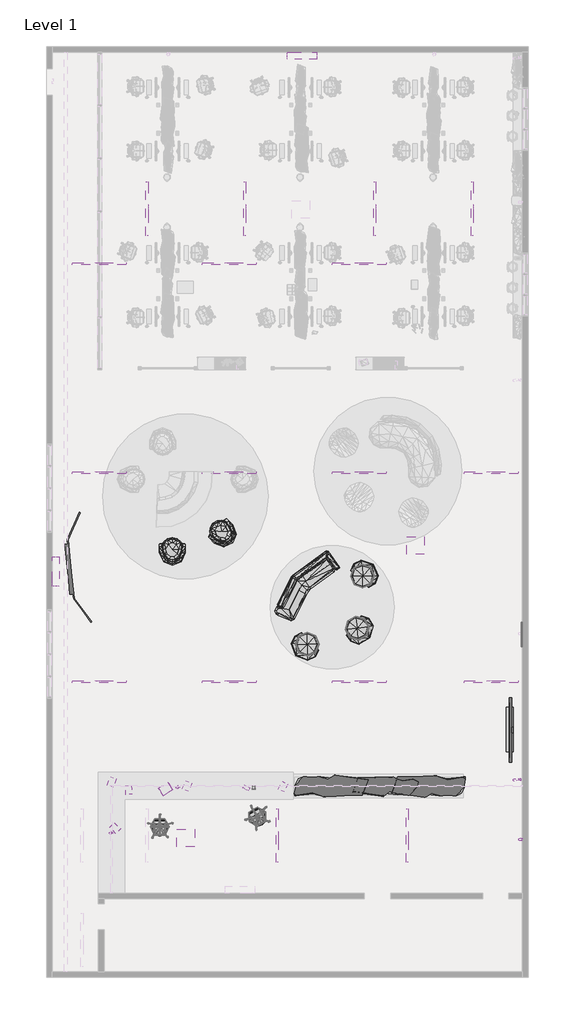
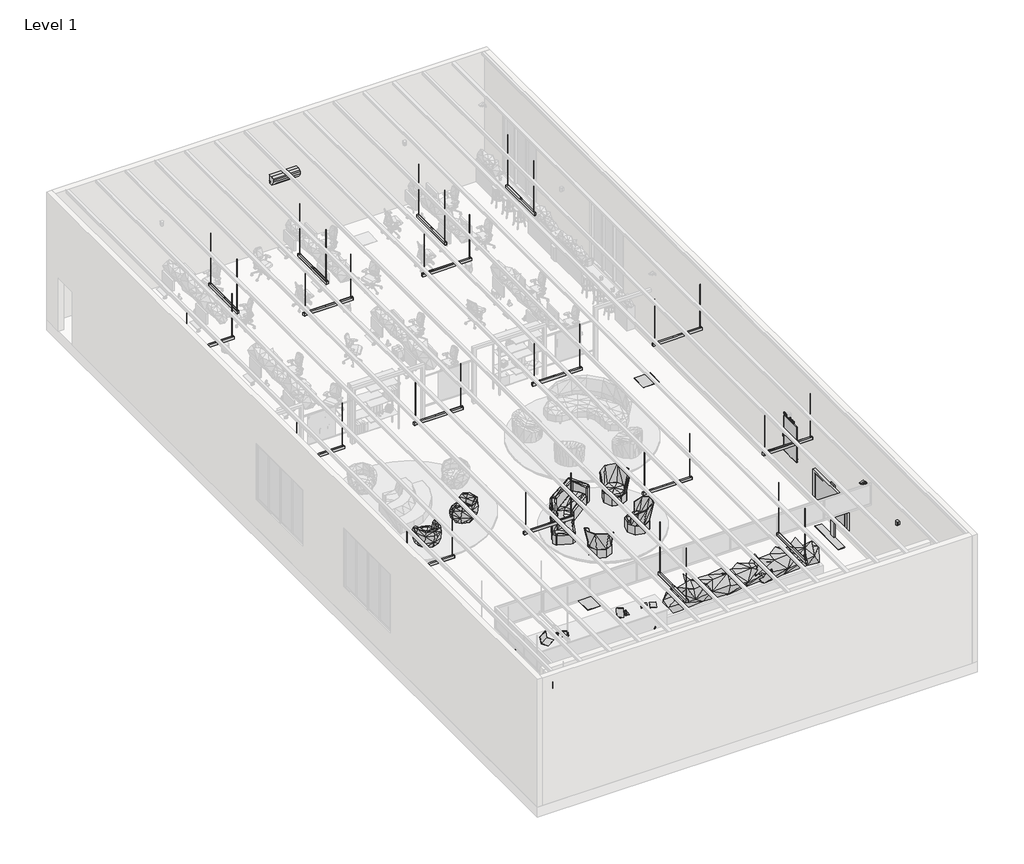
# One storey, part 2 of 6: 28 geographic elements, 17 light fixtures, 4 proxies.
"""IFC4 building model written with IfcOpenShell, lengths in millimetres."""

from ifc_helpers import new_model, si_unit, frame, origin, place, context, project, spatial, polyline, outline, extrude, transform, mapped, element, save
from components import mechanical_equipment_e18acb15, geographic_element_1c3b3942, geographic_element_586f9479, geographic_element_434369b6, geographic_element_3a85a20d, geographic_element_8d5893b8, enscape_assetdefinition_air_conditioner_001_enscape_db724180, enscape_assetdefinition_armchair_029_enscape_assetdefinition_e9313fe8, enscape_assetdefinition_armchair_062_enscape_assetdefinition_c0738665, enscape_assetdefinition_armchair_062_enscape_assetdefinition_27c534bf, enscape_assetdefinition_laptop_001_enscape_assetdefinition_056d9dbe, enscape_assetdefinition_office_chair_011_enscape_0e559967, enscape_assetdefinition_pencil_container_001_enscape_4b7912f9, enscape_assetdefinition_photo_grid_001_enscape_fef57153, enscape_assetdefinition_security_camera_003_enscape_78e4a898, enscape_assetdefinition_sofa_020_enscape_assetdefinition_e8b1b9e5, enscape_assetdefinition_tablet_stand_001_enscape_1d8d2ac8, enscape_assetdefinition_telephone_002_enscape_9aaeaa57, enscape_assetdefinition_wall_lamp_005_enscape_8ec44021, enscape_assetdefinition_whiteboard_008_digital_enscape_e1c9d93f, standart_2_fa765472, standart_3_6d86efcd

model = new_model("IFC4")

# Units and contexts
model_context = context("Model", 3, world=origin())
ifc_project = project(units=[si_unit("LENGTHUNIT", "METRE", prefix="MILLI")], contexts=[model_context])

# Site, building, storey
site = spatial("IfcSite", under=ifc_project)
building = spatial("IfcBuilding", under=site)
storey = spatial("IfcBuildingStorey", under=building, Name="Level 1", Elevation=0.0)

# Proxies
placement = place(None, origin())
mechanical_equipment_shape = mechanical_equipment_e18acb15(model_context)
element("IfcBuildingElementProxy", 1, Name="Fujitsu General_ASYG18LFCA : ASYG18LFCA", ObjectType="Fujitsu General_ASYG18LFCA : ASYG18LFCA", at=placement, inside=storey, context=model_context, shape_type="MappedRepresentation", body=[
    mapped(mechanical_equipment_shape, transform((17685.3362243, 16205.264194, 2800.0), x_axis=(1.0, 0.0, 0.0), y_axis=(0.0, 0.0, 1.0), z_axis=(0.0, -1.0, 0.0))),
])
element("IfcBuildingElementProxy", 2, Name="Fujitsu General_ASYG18LFCA : ASYG18LFCA", ObjectType="Fujitsu General_ASYG18LFCA : ASYG18LFCA", at=placement, inside=storey, context=model_context, shape_type="MappedRepresentation", body=[
    mapped(mechanical_equipment_shape, transform((9245.3362243, -1351.3561394, 3200.0), x_axis=(0.0, 1.0, 0.0), y_axis=(0.0, 0.0, 1.0), z_axis=(1.0, 0.0, 0.0))),
])
element("IfcBuildingElementProxy", 3, Name="24\" Arial 2", ObjectType="24\" Arial 2", at=placement, inside=storey, context=model_context, shape_type="SweptSolid", body=[
    extrude(outline(polyline([(815.1994003, 13568.8153847), (616.9284233, 13568.8153847), (616.9284233, 13614.5702255), (1066.851025, 13614.5702255), (1066.851025, 13493.272236), (1064.9334027, 13455.0389428), (1059.1805357, 13422.0781802), (1049.5924241, 13394.3899481), (1036.1690679, 13371.9742464), (1019.3126092, 13354.6672395), (999.4251902, 13342.3050918), (976.5068108, 13334.8878031), (950.5574712, 13332.4153736), (924.9693147, 13334.7984382), (901.3471866, 13341.9476321), (880.197488, 13353.4459189), (862.0266202, 13368.8762624), (846.8494774, 13388.0748268), (834.6809536, 13410.8777765), (826.2061801, 13435.1999298), (822.1102877, 13458.9561053), (818.9825154, 13451.5983933), (811.5056501, 13445.0151772), (616.9284233, 13288.9244441), (616.9284233, 13324.4321071), (619.609371, 13336.5261601), (627.7713673, 13345.998842), (805.5479886, 13491.723244), (813.0546421, 13500.8384662), (815.1994003, 13516.983729), (815.1994003, 13568.8153847)]), holes=[polyline([(845.7026275, 13568.8153847), (845.7026275, 13498.0383652), (847.3409845, 13471.8991251), (852.2560553, 13448.768504), (860.3435808, 13428.5720313), (871.4993021, 13411.2352362), (885.9466314, 13397.1602607), (903.9089811, 13386.7492471), (924.9544206, 13380.3149726), (948.6510195, 13378.1702144), (969.4953879, 13379.9910248), (987.4651846, 13385.4534557), (1002.5604096, 13394.5575073), (1014.7810629, 13407.3031795), (1024.2165094, 13423.6383428), (1030.956114, 13443.5108677), (1036.3477978, 13493.8680021), (1036.3477978, 13568.8153847), (845.7026275, 13568.8153847)])]), frame((0.0, -8221.3561394, 0.0), z_axis=(0.0, 1.0, 0.0), x_axis=(0.0, 0.0, 1.0)), (0.0, 0.0, 1.0), 30.0),
    extrude(outline(polyline([(937.2123092, 13109.9562906), (934.769668, 13082.3574234), (927.4417443, 13056.9926792), (915.7349393, 13034.6961308), (900.1556543, 13016.3018507), (881.0315606, 13001.6906857), (858.6903298, 12990.7434826), (833.0128084, 12983.9070659), (803.8798433, 12981.6282604), (789.6410322, 12985.6198936), (784.6961731, 12997.4756402), (784.6961731, 13210.4024646), (751.2439034, 13208.3768597), (720.830041, 13202.3000449), (695.2269905, 13192.4996916), (674.6581639, 13179.3034713), (659.0193023, 13163.3667266), (648.2061465, 13145.3448003), (641.9059194, 13125.2376925), (639.8058437, 13103.0454032), (644.4528197, 13066.2866313), (655.1170339, 13039.7154607), (667.2110869, 13020.591367), (673.2879017, 13004.8631405), (670.1899177, 12992.5903577), (657.6788284, 12982.8197927), (636.3504, 13006.2334027), (621.8732824, 13035.3067911), (612.7580602, 13068.967579), (609.3026165, 13105.1901613), (612.2367648, 13137.2572747), (621.0392098, 13166.4944989), (635.4418566, 13192.3507501), (655.1766106, 13214.2749447), (680.0200593, 13231.9840937), (709.7487905, 13245.1952082), (744.1542861, 13253.4167812), (783.0280278, 13256.1573055), (814.2163861, 13253.8040292), (842.9621032, 13246.7442002), (868.8183544, 13235.2310192), (891.3383152, 13219.5176868), (910.1049491, 13199.1722726), (924.7012199, 13173.762846), (934.0845369, 13143.8404908), (937.2123092, 13109.9562906)]), holes=[polyline([(906.709082, 13111.6244358), (905.0856192, 13132.3422039), (900.2152309, 13150.6471191), (892.3809059, 13166.5391813), (881.8656333, 13180.0183906), (868.6545187, 13191.1741119), (852.7326682, 13200.0957101), (815.1994003, 13210.4024646), (815.1994003, 13027.3831012), (835.6639678, 13028.9469874), (853.9242005, 13033.6386459), (869.6971095, 13041.0857228), (882.6997059, 13050.9158644), (892.9617779, 13063.0545999), (900.513114, 13077.4274584), (905.16009, 13093.7216628), (906.709082, 13111.6244358)])]), frame((0.0, -8221.3561394, 0.0), z_axis=(0.0, 1.0, 0.0), x_axis=(0.0, 0.0, 1.0)), (0.0, 0.0, 1.0), 30.0),
    extrude(outline(polyline([(886.2147262, 12686.7240127), (881.8060566, 12691.6092952), (879.7804517, 12699.3542552), (884.6061576, 12711.4483082), (894.0192629, 12726.0445791), (902.6578721, 12747.3134309), (906.709082, 12778.1145412), (904.4749589, 12801.7962459), (897.7725897, 12822.5586965), (886.9296456, 12840.3423163), (872.2737981, 12855.0875287), (853.8050473, 12866.7794395), (831.523393, 12875.4031546), (805.7267184, 12880.7203676), (776.7129066, 12882.4927719), (744.5862166, 12880.571426), (716.3617949, 12874.8073884), (692.3971012, 12865.5581189), (673.0495953, 12853.1810769), (658.2448063, 12838.2571347), (647.9082634, 12821.3671642), (641.8314486, 12802.6303185), (639.8058437, 12782.165751), (644.4528197, 12748.9815761), (654.8191509, 12726.521192), (667.0323571, 12710.3759291), (671.9027454, 12702.9735346), (673.5262082, 12694.7072792), (670.4282242, 12682.4344964), (658.1554413, 12672.6639314), (636.7674363, 12693.9923598), (622.1115888, 12720.0869175), (612.6984836, 12751.4242173), (609.3026165, 12786.5744206), (612.162294, 12816.6606115), (620.7413267, 12844.0062781), (634.7567255, 12868.1943841), (653.9255016, 12888.8078931), (677.9646661, 12905.5042397), (706.5912299, 12917.9408582), (739.5817808, 12925.6709241), (776.7129066, 12928.2476127), (809.852399, 12925.8943364), (839.9236958, 12918.8345074), (866.748067, 12907.2468557), (890.1467828, 12891.310111), (909.5836537, 12870.6668137), (924.5224901, 12844.959504), (934.0398545, 12814.5158534), (937.2123092, 12779.6635332), (934.6356206, 12748.490069), (926.9055547, 12720.9805667), (914.8859725, 12697.1648146), (899.4407349, 12677.072601), (886.2147262, 12686.7240127)])), frame((0.0, -8221.3561394, 0.0), z_axis=(0.0, 1.0, 0.0), x_axis=(0.0, 0.0, 1.0)), (0.0, 0.0, 1.0), 30.0),
    extrude(outline(polyline([(937.2123092, 12492.2659391), (934.769668, 12464.6670719), (927.4417443, 12439.3023277), (915.7349393, 12417.0057793), (900.1556543, 12398.6114992), (881.0315606, 12384.0003342), (858.6903298, 12373.0531311), (833.0128084, 12366.2167144), (803.8798433, 12363.9379089), (789.6410322, 12367.9295421), (784.6961731, 12379.7852886), (784.6961731, 12592.7121131), (751.2439034, 12590.6865082), (720.830041, 12584.6096934), (695.2269905, 12574.8093401), (674.6581639, 12561.6131197), (659.0193023, 12545.676375), (648.2061465, 12527.6544488), (641.9059194, 12507.547341), (639.8058437, 12485.3550517), (644.4528197, 12448.5962798), (655.1170339, 12422.0251092), (667.2110869, 12402.9010155), (673.2879017, 12387.172789), (670.1899177, 12374.9000062), (657.6788284, 12365.1294412), (636.3504, 12388.5430512), (621.8732824, 12417.6164396), (612.7580602, 12451.2772275), (609.3026165, 12487.4998098), (612.2367648, 12519.5669232), (621.0392098, 12548.8041474), (635.4418566, 12574.6603986), (655.1766106, 12596.5845932), (680.0200593, 12614.2937422), (709.7487905, 12627.5048567), (744.1542861, 12635.7264297), (783.0280278, 12638.466954), (814.2163861, 12636.1136777), (842.9621032, 12629.0538487), (868.8183544, 12617.5406677), (891.3383152, 12601.8273353), (910.1049491, 12581.4819211), (924.7012199, 12556.0724945), (934.0845369, 12526.1501393), (937.2123092, 12492.2659391)]), holes=[polyline([(906.709082, 12493.9340843), (905.0856192, 12514.6518524), (900.2152309, 12532.9567676), (892.3809059, 12548.8488298), (881.8656333, 12562.3280391), (868.6545187, 12573.4837604), (852.7326682, 12582.4053586), (815.1994003, 12592.7121131), (815.1994003, 12409.6927497), (835.6639678, 12411.2566359), (853.9242005, 12415.9482944), (869.6971095, 12423.3953713), (882.6997059, 12433.2255129), (892.9617779, 12445.3642484), (900.513114, 12459.7371069), (905.16009, 12476.0313113), (906.709082, 12493.9340843)])]), frame((0.0, -8221.3561394, 0.0), z_axis=(0.0, 1.0, 0.0), x_axis=(0.0, 0.0, 1.0)), (0.0, 0.0, 1.0), 30.0),
    extrude(outline(polyline([(510.167128, 12287.6798408), (937.2123092, 12287.6798408), (937.2123092, 12265.5173397), (934.2930551, 12253.6020166), (929.348196, 12249.66996), (888.8360973, 12245.4995969), (906.2771515, 12232.4821063), (922.1394255, 12208.4429419), (933.4440883, 12176.8673356), (937.2123092, 12141.2405194), (934.6654089, 12111.6309414), (927.024708, 12085.8342668), (914.2902064, 12063.8504956), (896.4619041, 12045.6796278), (873.807896, 12031.4482638), (846.5962768, 12021.2830037), (814.8270465, 12015.1838477), (778.500205, 12013.1507957), (744.437275, 12015.4444954), (712.5488915, 12022.3255945), (683.7138095, 12033.7345164), (658.8107841, 12049.6116845), (638.28664, 12069.8081572), (622.5882018, 12094.174993), (612.6240128, 12122.6526153), (609.3026165, 12155.1814475), (612.3857063, 12186.5932181), (621.6349759, 12213.387801), (636.2163526, 12232.7650953), (655.2957638, 12241.9249999), (510.167128, 12241.9249999), (510.167128, 12287.6798408)]), holes=[polyline([(906.709082, 12149.5812456), (902.9259669, 12176.7928648), (891.5766216, 12201.4724779), (873.7632135, 12223.2924134), (850.58791, 12241.9249999), (686.8713701, 12241.9249999), (664.0088438, 12223.8286029), (649.7551385, 12204.8087684), (642.2931674, 12184.1505769), (639.8058437, 12161.1391091), (642.0697551, 12138.6638308), (648.8614893, 12118.8992885), (660.1959404, 12101.6369641), (676.0880027, 12086.6683394), (696.3291578, 12074.5593923), (720.7108878, 12065.8761006), (748.4735907, 12060.6482525), (778.8576647, 12058.9056365), (810.1055997, 12060.3652636), (836.7661352, 12064.7441449), (858.8392713, 12072.0422803), (876.325008, 12082.2596699), (889.6180404, 12095.2250309), (899.1130635, 12110.7670805), (904.8100774, 12128.8858187), (906.709082, 12149.5812456)])]), frame((0.0, -8221.3561394, 0.0), z_axis=(0.0, 1.0, 0.0), x_axis=(0.0, 0.0, 1.0)), (0.0, 0.0, 1.0), 30.0),
    extrude(outline(polyline([(609.3026165, 11854.200385), (614.3070522, 11885.4036375), (629.3203593, 11909.1896013), (640.6175751, 11917.9734286), (654.4914795, 11924.2475909), (689.9693541, 11929.2669208), (899.0832752, 11929.2669208), (899.0832752, 11966.3235757), (903.0153318, 11977.285673), (914.0965824, 11981.8134958), (925.5352926, 11981.8134958), (929.348196, 11929.2669208), (1041.113927, 11921.5219607), (1044.9268304, 11918.066517), (1048.3822741, 11905.7937342), (1048.3822741, 11883.5120799), (929.5865024, 11883.5120799), (929.5865024, 11785.687277), (899.0832752, 11785.687277), (899.0832752, 11883.5120799), (689.9693541, 11883.5120799), (665.185482, 11880.2353661), (649.5168321, 11871.4776036), (641.8910253, 11860.3367764), (639.8058437, 11848.2427234), (642.3080616, 11833.6464526), (649.4572554, 11820.5395971), (657.3809453, 11810.0541128), (660.6576592, 11799.1515921), (659.1086672, 11791.8236684), (654.4616912, 11786.5213496), (641.8314486, 11778.4189298), (627.4883784, 11794.6684518), (617.3454596, 11813.1520968), (611.3133272, 11833.2145221), (609.3026165, 11854.200385)])), frame((0.0, -8221.3561394, 0.0), z_axis=(0.0, 1.0, 0.0), x_axis=(0.0, 0.0, 1.0)), (0.0, 0.0, 1.0), 30.0),
    extrude(outline(polyline([(11662.3636825, -8191.3561394), (11708.1185233, -8191.3561394), (11708.1185233, -8221.3561394), (11662.3636825, -8221.3561394), (11662.3636825, -8191.3561394)])), frame((0.0, 0.0, 616.9284233), z_axis=(0.0, 0.0, 1.0), x_axis=(1.0, 0.0, 0.0)), (0.0, 0.0, 1.0), 320.283886),
    extrude(outline(polyline([(1047.4290483, 11654.7378757), (1034.2030396, 11657.7762831), (1023.4792488, 11665.22336), (1016.2704783, 11675.8875742), (1013.4703773, 11689.1731595), (1016.2704783, 11702.6970513), (1023.5388254, 11713.4208421), (1034.0838864, 11720.6296126), (1047.4290483, 11723.3701369), (1055.8889277, 11721.2849554), (1064.1700773, 11715.446447), (1071.3788478, 11704.8418095), (1074.4768318, 11689.1731595), (1071.3788478, 11673.8619693), (1064.1700773, 11663.0786019), (1055.7101979, 11657.0017871), (1047.4290483, 11654.7378757)])), frame((0.0, -8221.3561394, 0.0), z_axis=(0.0, 1.0, 0.0), x_axis=(0.0, 0.0, 1.0)), (0.0, 0.0, 1.0), 30.0),
    extrude(outline(polyline([(937.2123092, 11441.0961318), (934.1143252, 11407.5544971), (924.8203732, 11377.9449191), (910.1645257, 11352.773799), (890.9808555, 11332.547538), (867.7310812, 11316.9235705), (840.8769217, 11305.5593311), (810.5077418, 11298.6335495), (776.7129066, 11296.3249556), (740.7137365, 11298.7378086), (708.2593751, 11305.9763674), (679.7072821, 11317.8470081), (655.414917, 11334.1561066), (635.7993163, 11354.8440864), (621.2775162, 11379.8513708), (612.2963414, 11408.7460295), (609.3026165, 11441.0961318), (612.2814473, 11473.5058107), (621.2179396, 11502.3408927), (635.7248455, 11527.3183888), (655.414917, 11548.1553102), (679.7370704, 11564.6282444), (708.1402219, 11576.5137793), (740.5052184, 11583.7076556), (776.7129066, 11586.1056144), (810.8205191, 11583.7970205), (841.1748047, 11576.8712389), (867.8800227, 11565.4921053), (891.0404321, 11549.8234554), (910.1794199, 11529.5525119), (924.8203732, 11504.3664976), (934.1143252, 11474.7271313), (937.2123092, 11441.0961318)]), holes=[polyline([(639.8058437, 11441.0961318), (641.9208136, 11419.0378898), (648.2657231, 11399.8095371), (659.0490906, 11383.1131906), (674.479434, 11368.6509671), (694.3184471, 11356.9888446), (718.3278232, 11348.6928008), (745.9713729, 11343.7330476), (776.7129066, 11342.0797965), (805.3096821, 11343.673471), (831.0467801, 11348.4544944), (853.4624817, 11356.3037135), (872.0950683, 11367.1019751), (886.8849631, 11380.9237499), (897.7725897, 11397.8435088), (904.4749589, 11417.89104), (906.709082, 11441.0961318), (904.4749589, 11464.2863294), (897.7725897, 11484.2891782), (886.8551748, 11501.208937), (871.9759151, 11515.1498651), (853.3582227, 11526.0821741), (831.2255099, 11533.9760756), (805.6522476, 11538.7570991), (776.7129066, 11540.3507735), (745.7479606, 11538.6677341), (718.1490933, 11533.618616), (694.2886588, 11525.2183131), (674.5390107, 11513.4817198), (659.1384555, 11498.9897081), (648.3252997, 11482.3231498), (641.9357077, 11463.1394796), (639.8058437, 11441.0961318)])]), frame((0.0, -8221.3561394, 0.0), z_axis=(0.0, 1.0, 0.0), x_axis=(0.0, 0.0, 1.0)), (0.0, 0.0, 1.0), 30.0),
    extrude(outline(polyline([(616.9284233, 11220.0668876), (937.2123092, 11220.0668876), (937.2123092, 11197.9043865), (935.2462809, 11186.5550412), (929.348196, 11182.0570067), (890.1467828, 11177.7674904), (906.6792937, 11165.0032005), (922.1990021, 11141.247025), (933.4589825, 11110.1331374), (937.2123092, 11075.2957114), (934.9781862, 11049.4245661), (928.2758169, 11026.8599229), (917.6711793, 11008.0635006), (903.7302512, 10993.4970181), (886.8849631, 10982.5796032), (867.5672455, 10974.7303841), (845.7175217, 10969.9940432), (821.2762151, 10968.4152629), (616.9284233, 10968.4152629), (616.9284233, 11014.1701037), (821.6336748, 11014.1701037), (857.7371039, 11018.4298317), (884.546581, 11031.2090158), (894.2426752, 11040.8678746), (901.1684568, 11052.805539), (906.709082, 11083.5172844), (903.0153318, 11109.4033239), (891.9340813, 11133.6807948), (874.8653809, 11155.5752011), (853.2092811, 11174.3120467), (616.9284233, 11174.3120467), (616.9284233, 11220.0668876)])), frame((0.0, -8221.3561394, 0.0), z_axis=(0.0, 1.0, 0.0), x_axis=(0.0, 0.0, 1.0)), (0.0, 0.0, 1.0), 30.0),
])
element("IfcBuildingElementProxy", 4, Name="24\" Arial 4", ObjectType="24\" Arial 4", at=placement, inside=storey, context=model_context, shape_type="SweptSolid", body=[
    extrude(outline(polyline([(-3145.5042475, 2536.6821631), (-3142.7796271, 2553.0831007), (-3135.0953462, 2565.9399032), (-3122.8451974, 2574.464985), (-3106.6571207, 2577.5514691), (-3090.5648315, 2574.454342), (-3078.3253258, 2565.9079741), (-3070.5984726, 2553.0937438), (-3067.8525661, 2536.6821631), (-3070.672974, 2519.3552802), (-3078.6446173, 2506.0514697), (-3090.9479813, 2497.4731727), (-3106.6571207, 2494.4505469), (-3122.4514046, 2497.4838157), (-3134.7441256, 2506.0621127), (-3142.6944827, 2519.3872094), (-3145.5042475, 2536.6821631)]), holes=[polyline([(-3137.3303863, 2536.660877), (-3135.0208448, 2520.8772362), (-3128.5285853, 2509.2337412), (-3118.8434112, 2502.2199723), (-3106.6784068, 2499.8997877), (-3094.619833, 2502.2199723), (-3084.9133728, 2509.2124551), (-3078.357255, 2520.8240209), (-3076.0264273, 2536.660877), (-3078.2721106, 2551.61436), (-3084.5727952, 2562.7257026), (-3094.2473263, 2569.6862563), (-3106.6784068, 2572.1022283), (-3119.2052748, 2569.6968993), (-3128.8478767, 2562.7363456), (-3135.0953462, 2551.5824309), (-3137.3303863, 2536.660877)])]), frame((25115.3362243, 0.0, 0.0), z_axis=(1.0, 0.0, 0.0), x_axis=(0.0, 1.0, 0.0)), (0.0, 0.0, 1.0), 30.0),
    extrude(outline(polyline([(-3167.3012107, 2553.0298855), (-3159.1273495, 2553.0298855), (-3159.1273495, 2517.0350957), (-3160.3087279, 2507.7862866), (-3163.8741491, 2500.6554441), (-3169.8555423, 2496.0470042), (-3178.2209784, 2494.4505469), (-3189.6622555, 2497.760535), (-3196.6121661, 2505.5406034), (-3197.2720351, 2498.431047), (-3200.0817999, 2495.8128571), (-3204.0835861, 2495.8128571), (-3204.0835861, 2553.0298855), (-3195.9097249, 2553.0298855), (-3195.9097249, 2510.2022586), (-3188.2148009, 2502.4966915), (-3179.668433, 2499.8997877), (-3170.5579835, 2504.2315084), (-3167.3012107, 2516.886093), (-3167.3012107, 2553.0298855)])), frame((25115.3362243, 0.0, 0.0), z_axis=(1.0, 0.0, 0.0), x_axis=(0.0, 1.0, 0.0)), (0.0, 0.0, 1.0), 30.0),
    extrude(outline(polyline([(-3221.7936187, 2495.8128571), (-3229.9674799, 2495.8128571), (-3229.9674799, 2533.4253903), (-3236.0233744, 2543.9620082), (-3245.5276167, 2547.5806447), (-3248.4331689, 2547.3571407), (-3253.3609003, 2546.1331901), (-3255.7875154, 2548.091511), (-3256.5112427, 2551.0715646), (-3251.6580126, 2552.5722344), (-3246.5493493, 2553.0298855), (-3234.4482033, 2549.4325351), (-3229.7333328, 2540.9180964), (-3229.1586082, 2552.4232317), (-3226.4339878, 2553.0298855), (-3221.7936187, 2553.0298855), (-3221.7936187, 2495.8128571)])), frame((25115.3362243, 0.0, 0.0), z_axis=(1.0, 0.0, 0.0), x_axis=(0.0, 1.0, 0.0)), (0.0, 0.0, 1.0), 30.0),
    extrude(outline(polyline([(-3303.5322307, 2528.5083019), (-3317.1553327, 2528.5083019), (-3329.5651271, 2530.3069771), (-3339.0161541, 2535.3624251), (-3345.0188335, 2543.1957087), (-3347.126157, 2553.1576021), (-3345.2769274, 2562.7150596), (-3339.7292384, 2570.0161908), (-3330.4405179, 2574.6459168), (-3317.3681936, 2576.1891589), (-3295.3583695, 2576.1891589), (-3295.3583695, 2495.8128571), (-3303.5322307, 2495.8128571), (-3303.5322307, 2528.5083019)]), holes=[polyline([(-3303.5322307, 2533.9575427), (-3303.5322307, 2570.7399181), (-3317.3043353, 2570.7399181), (-3333.5881994, 2566.1846933), (-3337.6112717, 2560.6449866), (-3338.9522958, 2553.136316), (-3337.3664816, 2545.1221005), (-3332.9176874, 2539.0449198), (-3326.1593516, 2535.2879237), (-3317.3043353, 2533.9575427), (-3303.5322307, 2533.9575427)])]), frame((25115.3362243, 0.0, 0.0), z_axis=(1.0, 0.0, 0.0), x_axis=(0.0, 1.0, 0.0)), (0.0, 0.0, 1.0), 30.0),
    extrude(outline(polyline([(-3359.3869488, 2495.8128571), (-3367.56081, 2495.8128571), (-3367.56081, 2533.4253903), (-3373.6167046, 2543.9620082), (-3383.1209468, 2547.5806447), (-3386.0264991, 2547.3571407), (-3390.9542305, 2546.1331901), (-3393.3808455, 2548.091511), (-3394.1045728, 2551.0715646), (-3389.2513427, 2552.5722344), (-3384.1426795, 2553.0298855), (-3372.0415334, 2549.4325351), (-3367.326663, 2540.9180964), (-3366.7519384, 2552.4232317), (-3364.027318, 2553.0298855), (-3359.3869488, 2553.0298855), (-3359.3869488, 2495.8128571)])), frame((25115.3362243, 0.0, 0.0), z_axis=(1.0, 0.0, 0.0), x_axis=(0.0, 1.0, 0.0)), (0.0, 0.0, 1.0), 30.0),
    extrude(outline(polyline([(-3427.5237449, 2553.0298855), (-3416.2208275, 2550.8161314), (-3408.1001815, 2544.7815229), (-3403.2682375, 2535.8732914), (-3401.618565, 2524.357513), (-3403.3320958, 2512.1073643), (-3408.3981869, 2502.6882664), (-3416.5826911, 2496.5791566), (-3427.5237449, 2494.4505469), (-3438.4647987, 2496.5897996), (-3446.6280168, 2502.6882664), (-3451.6621788, 2512.1286503), (-3453.3863526, 2524.357513), (-3451.7366801, 2535.8200762), (-3446.9153792, 2544.7708799), (-3438.8053763, 2550.8161314), (-3427.5237449, 2553.0298855)]), holes=[polyline([(-3427.5237449, 2499.8997877), (-3420.1587554, 2501.4217436), (-3414.5924411, 2506.1046849), (-3410.9950907, 2513.8953964), (-3409.7924262, 2524.357513), (-3410.9312324, 2534.0959023), (-3414.2944357, 2541.3757474), (-3419.8075348, 2545.9841874), (-3427.5237449, 2547.5806447), (-3435.2505981, 2545.9841874), (-3440.7424111, 2541.3970335), (-3444.0736852, 2534.0639732), (-3445.2124914, 2524.357513), (-3444.031113, 2513.9273255), (-3440.4656918, 2506.0940419), (-3434.8993775, 2501.4111006), (-3427.5237449, 2499.8997877)])]), frame((25115.3362243, 0.0, 0.0), z_axis=(1.0, 0.0, 0.0), x_axis=(0.0, 1.0, 0.0)), (0.0, 0.0, 1.0), 30.0),
    extrude(outline(polyline([(-3476.545626, 2553.0298855), (-3468.3717648, 2553.0298855), (-3468.3717648, 2490.2784719), (-3466.3602286, 2483.0944142), (-3460.8364865, 2480.8274449), (-3459.0165252, 2481.0509489), (-3457.3881388, 2481.2744529), (-3455.238243, 2480.5932978), (-3454.9615238, 2477.102378), (-3458.5056589, 2475.6868525), (-3461.7305026, 2475.3782041), (-3468.1163316, 2476.5063672), (-3472.7354147, 2479.6779957), (-3475.5983947, 2484.4247953), (-3476.545626, 2490.2784719), (-3476.545626, 2553.0298855)])), frame((25115.3362243, 0.0, 0.0), z_axis=(1.0, 0.0, 0.0), x_axis=(0.0, 1.0, 0.0)), (0.0, 0.0, 1.0), 30.0),
    extrude(outline(polyline([(-3477.7057183, 2573.4592169), (-3476.4179094, 2575.7102217), (-3474.4915176, 2576.9980305), (-3471.7562542, 2577.5514691), (-3468.9571325, 2576.9980305), (-3467.0626698, 2575.7102217), (-3465.6471444, 2572.7195251), (-3466.1367246, 2570.3354822), (-3467.4245335, 2568.4516627), (-3469.3402822, 2567.1532107), (-3471.7562542, 2566.6529875), (-3474.129654, 2567.1532107), (-3476.0347597, 2568.4410196), (-3477.3651407, 2570.3567683), (-3477.7057183, 2573.4592169)])), frame((25115.3362243, 0.0, 0.0), z_axis=(1.0, 0.0, 0.0), x_axis=(0.0, 1.0, 0.0)), (0.0, 0.0, 1.0), 30.0),
    extrude(outline(polyline([(-3516.2867688, 2553.0298855), (-3504.888064, 2550.7948453), (-3496.7142028, 2544.8347382), (-3491.8503296, 2536.1925829), (-3490.168728, 2525.4856761), (-3492.1270489, 2512.3947266), (-3497.650791, 2502.6456942), (-3506.1865159, 2496.5472274), (-3517.1382127, 2494.4505469), (-3523.6091862, 2495.0678437), (-3529.6225085, 2496.6962301), (-3534.8163162, 2499.2824909), (-3538.9990342, 2503.0927022), (-3537.2535743, 2505.3277424), (-3535.0611063, 2505.8811809), (-3532.2513415, 2504.79559), (-3528.834923, 2502.6350511), (-3524.0881233, 2500.7299455), (-3517.5213625, 2499.8997877), (-3509.9647981, 2501.4004575), (-3503.8982605, 2506.125971), (-3499.7900438, 2514.3743336), (-3498.3425892, 2525.7836815), (-3536.3808443, 2525.7836815), (-3538.4988109, 2526.6670545), (-3539.2118952, 2529.2107431), (-3537.5835088, 2539.0023476), (-3533.017641, 2546.4099094), (-3525.7484389, 2551.2844255), (-3516.2867688, 2553.0298855)]), holes=[polyline([(-3515.9887635, 2547.5806447), (-3522.0978733, 2546.4737676), (-3526.8340298, 2543.2914962), (-3529.9205139, 2538.1509038), (-3531.038034, 2531.2329223), (-3498.3425892, 2531.2329223), (-3500.1838366, 2537.9380428), (-3503.7705439, 2543.1424935), (-3509.0175668, 2546.4205524), (-3515.9887635, 2547.5806447)])]), frame((25115.3362243, 0.0, 0.0), z_axis=(1.0, 0.0, 0.0), x_axis=(0.0, 1.0, 0.0)), (0.0, 0.0, 1.0), 30.0),
    extrude(outline(polyline([(-3591.8949849, 2543.919436), (-3593.6191588, 2546.2821928), (-3585.7752321, 2551.1886381), (-3575.2918294, 2553.0298855), (-3563.6270483, 2550.7629162), (-3555.3467566, 2544.6218772), (-3550.4296682, 2535.6497874), (-3548.7480666, 2524.357513), (-3550.5893139, 2511.830645), (-3555.7937646, 2502.4221902), (-3563.7973371, 2496.4940122), (-3574.0572357, 2494.4505469), (-3580.3366343, 2495.0572007), (-3585.9348778, 2496.7388023), (-3590.596533, 2499.3569922), (-3594.4067443, 2503.1778466), (-3592.6612844, 2505.3703146), (-3590.4688164, 2505.9237531), (-3587.6696947, 2504.7636608), (-3584.7854286, 2502.5818359), (-3580.7729993, 2500.7299455), (-3574.8448213, 2499.8997877), (-3567.8416955, 2501.3472423), (-3562.1583076, 2505.8386087), (-3558.294881, 2513.5761049), (-3556.9219278, 2524.357513), (-3558.1884505, 2534.1491176), (-3561.81773, 2541.4289627), (-3567.6288345, 2545.9841874), (-3575.5685486, 2547.5806447), (-3581.0710047, 2546.8569174), (-3584.870573, 2545.3136754), (-3587.4781198, 2543.6320737), (-3591.8949849, 2543.919436)])), frame((25115.3362243, 0.0, 0.0), z_axis=(1.0, 0.0, 0.0), x_axis=(0.0, 1.0, 0.0)), (0.0, 0.0, 1.0), 30.0),
    extrude(outline(polyline([(-3620.7376462, 2494.4505469), (-3628.0707065, 2495.8873584), (-3634.2756038, 2500.2616513), (-3632.8281492, 2502.5179776), (-3630.5718229, 2503.6248546), (-3628.6241451, 2503.039487), (-3626.7509685, 2501.6239615), (-3624.4094979, 2500.3467957), (-3621.801951, 2499.8997877), (-3619.6414122, 2500.2722944), (-3617.6511621, 2501.6346046), (-3616.086634, 2504.4337263), (-3615.5012663, 2508.8612345), (-3615.5012663, 2546.2183345), (-3632.9771519, 2546.2183345), (-3632.9771519, 2551.6675753), (-3615.5012663, 2551.6675753), (-3615.5012663, 2572.8898139), (-3611.5207662, 2572.8898139), (-3608.7110014, 2571.5913619), (-3607.3274051, 2551.6250031), (-3597.9402364, 2550.943848), (-3597.9402364, 2548.9003827), (-3598.7491081, 2546.9207757), (-3600.707429, 2546.2183345), (-3607.3274051, 2546.2183345), (-3607.3274051, 2508.8612345), (-3610.9141125, 2498.0266112), (-3620.7376462, 2494.4505469)])), frame((25115.3362243, 0.0, 0.0), z_axis=(1.0, 0.0, 0.0), x_axis=(0.0, 1.0, 0.0)), (0.0, 0.0, 1.0), 30.0),
    extrude(outline(polyline([(-3679.1679821, 2544.5154467), (-3680.5302923, 2546.6440564), (-3672.782153, 2551.4014991), (-3662.9266902, 2553.0298855), (-3654.4122514, 2551.6569322), (-3648.0796376, 2548.1021541), (-3644.1417097, 2543.2914962), (-3642.7474703, 2537.9380428), (-3644.205568, 2531.4777124), (-3647.951921, 2527.1034195), (-3652.996726, 2524.2404395), (-3658.6268986, 2522.2501894), (-3664.1187116, 2520.4940864), (-3668.610078, 2518.5144794), (-3671.6007746, 2515.8324312), (-3672.7182947, 2512.0328629), (-3671.8242787, 2506.988058), (-3669.2486609, 2503.0820592), (-3665.3533052, 2500.7193024), (-3660.2233559, 2499.8997877), (-3654.9231177, 2500.6767302), (-3651.240623, 2502.4115471), (-3648.4521443, 2504.4550124), (-3645.6210934, 2505.5406034), (-3642.9390452, 2504.6465873), (-3641.4703045, 2502.2412584), (-3649.7825253, 2496.5152983), (-3660.3085002, 2494.4505469), (-3668.9400125, 2495.8980015), (-3675.421629, 2499.8572155), (-3679.4872735, 2505.7747504), (-3680.8921559, 2513.1184539), (-3679.593704, 2518.4612642), (-3676.0921411, 2522.4843365), (-3671.1218375, 2525.3686026), (-3665.2468747, 2527.5078553), (-3659.7550617, 2529.2852444), (-3655.4446271, 2531.1584209), (-3652.2197834, 2533.9468996), (-3650.9213315, 2538.5979118), (-3651.7514893, 2541.929186), (-3654.1461752, 2544.792166), (-3657.9776726, 2546.8143452), (-3663.0331206, 2547.5806447), (-3668.3120727, 2546.9101326), (-3672.0371396, 2545.4201058), (-3674.6234004, 2543.8236486), (-3676.7626531, 2543.046706), (-3679.1679821, 2544.5154467)])), frame((25115.3362243, 0.0, 0.0), z_axis=(1.0, 0.0, 0.0), x_axis=(0.0, 1.0, 0.0)), (0.0, 0.0, 1.0), 30.0),
    extrude(outline(polyline([(-3693.1529477, 2501.2408118), (-3695.1006256, 2496.3982248), (-3699.9432126, 2494.4505469), (-3702.5826886, 2494.9614132), (-3704.7219414, 2496.3769387), (-3706.2013251, 2498.5161914), (-3706.7760497, 2501.2408118), (-3706.3290417, 2502.9436995), (-3705.1050911, 2504.6678734), (-3702.9658384, 2506.1046849), (-3699.9432126, 2506.7113387), (-3696.8460855, 2506.0940419), (-3694.7387619, 2504.6572303), (-3693.5680266, 2502.9862717), (-3693.1529477, 2501.2408118)])), frame((25115.3362243, 0.0, 0.0), z_axis=(1.0, 0.0, 0.0), x_axis=(0.0, 1.0, 0.0)), (0.0, 0.0, 1.0), 30.0),
    extrude(outline(polyline([(-3693.1529477, 2546.1970484), (-3695.1006256, 2541.3544613), (-3699.9432126, 2539.4067835), (-3702.5826886, 2539.9176498), (-3704.7219414, 2541.3331752), (-3706.2013251, 2543.472428), (-3706.7760497, 2546.1970484), (-3706.3290417, 2547.8999361), (-3705.1050911, 2549.62411), (-3702.9658384, 2551.0609215), (-3699.9432126, 2551.6675753), (-3696.8460855, 2551.0502785), (-3694.7387619, 2549.6134669), (-3693.5680266, 2547.9425083), (-3693.1529477, 2546.1970484)])), frame((25115.3362243, 0.0, 0.0), z_axis=(1.0, 0.0, 0.0), x_axis=(0.0, 1.0, 0.0)), (0.0, 0.0, 1.0), 30.0),
])

# Geographic elements
geographic_element_shape = geographic_element_1c3b3942(model_context)
element("IfcGeographicElement", 5, ObjectType="Enscape AssetDefinition - Clipboard 001 : Enscape AssetDefinition - Clipboard 001", at=placement, inside=storey, context=model_context, shape_type="MappedRepresentation", body=[
    mapped(geographic_element_shape, transform((13802.609737, -8619.4615956, 1200.0), x_axis=(0.9271838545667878, -0.3746065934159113, 0.0), y_axis=(0.3746065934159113, 0.9271838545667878, 0.0), z_axis=(0.0, 0.0, 1.0))),
])
element("IfcGeographicElement", 6, ObjectType="Enscape AssetDefinition - Clipboard 001 : Enscape AssetDefinition - Clipboard 001", at=placement, inside=storey, context=model_context, shape_type="MappedRepresentation", body=[
    mapped(geographic_element_shape, transform((11366.6565679, -10040.5294224, 1200.0), x_axis=(0.7071067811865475, 0.7071067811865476, 0.0), y_axis=(-0.7071067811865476, 0.7071067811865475, 0.0), z_axis=(0.0, 0.0, 1.0))),
])
geographic_element_2_shape = geographic_element_586f9479(model_context)
element("IfcGeographicElement", 7, ObjectType="Enscape AssetDefinition - Leaflets 001 : Enscape AssetDefinition - Leaflets 001", at=placement, inside=storey, context=model_context, shape_type="MappedRepresentation", body=[
    mapped(geographic_element_2_shape, transform((16918.2346312, -8578.1987213, 1200.0), x_axis=(0.9063077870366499, -0.42261826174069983, 0.0), y_axis=(0.42261826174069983, 0.9063077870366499, 0.0), z_axis=(0.0, 0.0, 1.0))),
])
element("IfcGeographicElement", 8, ObjectType="Enscape AssetDefinition - Leaflets 001 : Enscape AssetDefinition - Leaflets 001", at=placement, inside=storey, context=model_context, shape_type="MappedRepresentation", body=[
    mapped(geographic_element_2_shape, transform((11965.7049248, -8735.4475086, 1200.0), x_axis=(0.9937349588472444, 0.11176238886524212, 0.0), y_axis=(-0.11176238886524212, 0.9937349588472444, 0.0), z_axis=(0.0, 0.0, 1.0))),
])
element("IfcGeographicElement", 9, ObjectType="Enscape AssetDefinition - Leaflets 001 : Enscape AssetDefinition - Leaflets 001", at=placement, inside=storey, context=model_context, shape_type="MappedRepresentation", body=[
    mapped(geographic_element_2_shape, transform((11392.2980075, -8531.9072306, 1200.0), x_axis=(0.9361633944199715, -0.35156521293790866, 0.0), y_axis=(0.35156521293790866, 0.9361633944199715, 0.0), z_axis=(0.0, 0.0, 1.0))),
])
geographic_element_3_shape = geographic_element_434369b6(model_context)
element("IfcGeographicElement", 10, ObjectType="Enscape AssetDefinition - Whiteboard 007 Decals : Enscape AssetDefinition - Whiteboard 007 Decals", at=placement, inside=storey, context=model_context, shape_type="MappedRepresentation", body=[
    mapped(geographic_element_3_shape, transform((9747.0673054, -1283.3869923, 0.0), x_axis=(-0.10452846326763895, 0.994521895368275, 0.0), y_axis=(-0.994521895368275, -0.10452846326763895, 0.0), z_axis=(0.0, 0.0, 1.0))),
])
geographic_element_4_shape = geographic_element_3a85a20d(model_context)
element("IfcGeographicElement", 11, ObjectType="Enscape AssetDefinition - Potted Plant 250 Snake Plant : Enscape AssetDefinition - Potted Plant 250 Snake Plant 2", at=placement, inside=storey, context=model_context, shape_type="MappedRepresentation", body=[
    mapped(geographic_element_4_shape, transform((18695.3362243, -8623.8561394, 800.0), x_axis=(0.0, 1.0, 0.0), y_axis=(-1.0, 0.0, 0.0), z_axis=(0.0, 0.0, 1.0))),
])
element("IfcGeographicElement", 12, ObjectType="Enscape AssetDefinition - Potted Plant 250 Snake Plant : Enscape AssetDefinition - Potted Plant 250 Snake Plant 2", at=placement, inside=storey, context=model_context, shape_type="MappedRepresentation", body=[
    mapped(geographic_element_4_shape, transform((21955.3362243, -8623.8561394, 800.0), x_axis=(0.0, -1.0, 0.0), y_axis=(1.0, 0.0, 0.0), z_axis=(0.0, 0.0, 1.0))),
])
geographic_element_5_shape = geographic_element_8d5893b8(model_context)
element("IfcGeographicElement", 13, ObjectType="Enscape AssetDefinition - Potted Plant 250 Snake Plant : Enscape AssetDefinition - Potted Plant 250 Snake Plant 3", at=placement, inside=storey, context=model_context, shape_type="MappedRepresentation", body=[
    mapped(geographic_element_5_shape, transform((20495.3362243, -8623.8561394, 800.0), x_axis=(0.0, -1.0, 0.0), y_axis=(1.0, 0.0, 0.0), z_axis=(0.0, 0.0, 1.0))),
])
enscape_assetdefinition_air_conditioner_001_enscape_shape = enscape_assetdefinition_air_conditioner_001_enscape_db724180(model_context)
element("IfcGeographicElement", 14, ObjectType="Enscape AssetDefinition - Air Conditioner 001 : Enscape AssetDefinition - Air Conditioner 001", at=placement, inside=storey, context=model_context, shape_type="MappedRepresentation", body=[
    mapped(enscape_assetdefinition_air_conditioner_001_enscape_shape, transform((21535.3362243, -474.735806, 3500.0), x_axis=(1.0, 0.0, 0.0), y_axis=(0.0, 1.0, 0.0), z_axis=(0.0, 0.0, 1.0))),
])
element("IfcGeographicElement", 15, ObjectType="Enscape AssetDefinition - Air Conditioner 001 : Enscape AssetDefinition - Air Conditioner 001", at=placement, inside=storey, context=model_context, shape_type="MappedRepresentation", body=[
    mapped(enscape_assetdefinition_air_conditioner_001_enscape_shape, transform((13755.3362243, -10374.735806, 3500.0), x_axis=(1.0, 0.0, 0.0), y_axis=(0.0, 1.0, 0.0), z_axis=(0.0, 0.0, 1.0))),
])
enscape_assetdefinition_armchair_029_enscape_assetdefinition_shape = enscape_assetdefinition_armchair_029_enscape_assetdefinition_e9313fe8(model_context)
element("IfcGeographicElement", 16, ObjectType="Enscape AssetDefinition - Armchair 029 : Enscape AssetDefinition - Armchair 029", at=placement, inside=storey, context=model_context, shape_type="MappedRepresentation", body=[
    mapped(enscape_assetdefinition_armchair_029_enscape_assetdefinition_shape, transform((13299.899454, -707.7051457, 100.0), x_axis=(-1.0, 0.0, 0.0), y_axis=(0.0, -1.0, 0.0), z_axis=(0.0, 0.0, 1.0))),
])
element("IfcGeographicElement", 17, ObjectType="Enscape AssetDefinition - Armchair 029 : Enscape AssetDefinition - Armchair 029", at=placement, inside=storey, context=model_context, shape_type="MappedRepresentation", body=[
    mapped(enscape_assetdefinition_armchair_029_enscape_assetdefinition_shape, transform((15028.7486539, -75.7331379, 100.0), x_axis=(-0.7071067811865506, -0.7071067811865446, 0.0), y_axis=(0.7071067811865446, -0.7071067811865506, 0.0), z_axis=(0.0, 0.0, 1.0))),
])
enscape_assetdefinition_armchair_062_enscape_assetdefinition_shape = enscape_assetdefinition_armchair_062_enscape_assetdefinition_c0738665(model_context)
element("IfcGeographicElement", 18, ObjectType="Enscape AssetDefinition - Armchair 062 : Enscape AssetDefinition - Armchair 062", at=placement, inside=storey, context=model_context, shape_type="MappedRepresentation", body=[
    mapped(enscape_assetdefinition_armchair_062_enscape_assetdefinition_shape, transform((19737.1924114, -1509.0338674, 100.0), x_axis=(0.7332728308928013, -0.6799345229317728, 0.0), y_axis=(0.6799345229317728, 0.7332728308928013, 0.0), z_axis=(0.0, 0.0, 1.0))),
])
element("IfcGeographicElement", 19, ObjectType="Enscape AssetDefinition - Armchair 062 : Enscape AssetDefinition - Armchair 062", at=placement, inside=storey, context=model_context, shape_type="MappedRepresentation", body=[
    mapped(enscape_assetdefinition_armchair_062_enscape_assetdefinition_shape, transform((19558.5627873, -3276.2277736, 100.0), x_axis=(-0.6156614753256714, -0.7880107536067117, 0.0), y_axis=(0.7880107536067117, -0.6156614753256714, 0.0), z_axis=(0.0, 0.0, 1.0))),
])
enscape_assetdefinition_armchair_062_enscape_assetdefinition_2_shape = enscape_assetdefinition_armchair_062_enscape_assetdefinition_27c534bf(model_context)
element("IfcGeographicElement", 20, ObjectType="Enscape AssetDefinition - Armchair 062 : Enscape AssetDefinition - Armchair 062", at=placement, inside=storey, context=model_context, shape_type="MappedRepresentation", body=[
    mapped(enscape_assetdefinition_armchair_062_enscape_assetdefinition_2_shape, transform((17862.6578155, -3821.706815, 100.0), x_axis=(0.7071067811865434, -0.7071067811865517, 0.0), y_axis=(0.7071067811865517, 0.7071067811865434, 0.0), z_axis=(0.0, 0.0, 1.0))),
])
enscape_assetdefinition_laptop_001_enscape_assetdefinition_shape = enscape_assetdefinition_laptop_001_enscape_assetdefinition_056d9dbe(model_context)
element("IfcGeographicElement", 21, ObjectType="Enscape AssetDefinition - Laptop 001 : Enscape AssetDefinition - Laptop 001", at=placement, inside=storey, context=model_context, shape_type="MappedRepresentation", body=[
    mapped(enscape_assetdefinition_laptop_001_enscape_assetdefinition_shape, transform((13088.2065876, -8742.5395627, 1200.0), x_axis=(0.5299192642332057, -0.8480480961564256, 0.0), y_axis=(0.8480480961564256, 0.5299192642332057, 0.0), z_axis=(0.0, 0.0, 1.0))),
])
enscape_assetdefinition_office_chair_011_enscape_shape = enscape_assetdefinition_office_chair_011_enscape_0e559967(model_context)
element("IfcGeographicElement", 22, ObjectType="Enscape AssetDefinition - Office Chair 011 : Enscape AssetDefinition - Office Chair 011", at=placement, inside=storey, context=model_context, shape_type="MappedRepresentation", body=[
    mapped(enscape_assetdefinition_office_chair_011_enscape_shape, transform((12876.7385791, -10000.0, 0.0), x_axis=(-1.0, 0.0, 0.0), y_axis=(0.0, -1.0, 0.0), z_axis=(0.0, 0.0, 1.0))),
])
element("IfcGeographicElement", 23, ObjectType="Enscape AssetDefinition - Office Chair 011 : Enscape AssetDefinition - Office Chair 011", at=placement, inside=storey, context=model_context, shape_type="MappedRepresentation", body=[
    mapped(enscape_assetdefinition_office_chair_011_enscape_shape, transform((16175.8925203, -9658.8455226, 0.0), x_axis=(-0.8571673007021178, -0.5150380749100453, 0.0), y_axis=(0.5150380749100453, -0.8571673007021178, 0.0), z_axis=(0.0, 0.0, 1.0))),
])
enscape_assetdefinition_pencil_container_001_enscape_shape = enscape_assetdefinition_pencil_container_001_enscape_4b7912f9(model_context)
element("IfcGeographicElement", 24, ObjectType="Enscape AssetDefinition - Pencil Container 001 : Enscape AssetDefinition - Pencil Container 001", at=placement, inside=storey, context=model_context, shape_type="MappedRepresentation", body=[
    mapped(enscape_assetdefinition_pencil_container_001_enscape_shape, transform((13467.8733599, -8671.0819289, 1200.0), x_axis=(1.0, 0.0, 0.0), y_axis=(0.0, 1.0, 0.0), z_axis=(0.0, 0.0, 1.0))),
])
element("IfcGeographicElement", 25, ObjectType="Enscape AssetDefinition - Pencil Container 001 : Enscape AssetDefinition - Pencil Container 001", at=placement, inside=storey, context=model_context, shape_type="MappedRepresentation", body=[
    mapped(enscape_assetdefinition_pencil_container_001_enscape_shape, transform((11199.3726574, -10216.1909815, 1200.0), x_axis=(1.0, 0.0, 0.0), y_axis=(0.0, 1.0, 0.0), z_axis=(0.0, 0.0, 1.0))),
])
enscape_assetdefinition_photo_grid_001_enscape_shape = enscape_assetdefinition_photo_grid_001_enscape_fef57153(model_context)
element("IfcGeographicElement", 26, ObjectType="Enscape AssetDefinition - Photo Grid 001 : Enscape AssetDefinition - Photo Grid 001", at=placement, inside=storey, context=model_context, shape_type="MappedRepresentation", body=[
    mapped(enscape_assetdefinition_photo_grid_001_enscape_shape, transform((25145.3362243, -3486.470806, 1769.3583592), x_axis=(0.0, -1.0, 0.0), y_axis=(1.0, 0.0, 0.0), z_axis=(0.0, 0.0, 1.0))),
])
enscape_assetdefinition_security_camera_003_enscape_shape = enscape_assetdefinition_security_camera_003_enscape_78e4a898(model_context)
element("IfcGeographicElement", 27, ObjectType="Enscape AssetDefinition - Security Camera 003 : Enscape AssetDefinition - Security Camera 003", at=placement, inside=storey, context=model_context, shape_type="MappedRepresentation", body=[
    mapped(enscape_assetdefinition_security_camera_003_enscape_shape, transform((25085.3362243, -8397.0033253, 3015.1851261), x_axis=(0.0, -1.0, 0.0), y_axis=(1.0, 0.0, 0.0), z_axis=(0.0, 0.0, 1.0))),
])
enscape_assetdefinition_sofa_020_enscape_assetdefinition_shape = enscape_assetdefinition_sofa_020_enscape_assetdefinition_e8b1b9e5(model_context)
element("IfcGeographicElement", 28, ObjectType="Enscape AssetDefinition - Sofa 020 : Enscape AssetDefinition - Sofa 020", at=placement, inside=storey, context=model_context, shape_type="MappedRepresentation", body=[
    mapped(enscape_assetdefinition_sofa_020_enscape_assetdefinition_shape, transform((17842.4227095, -1979.0989581, 100.0), x_axis=(0.8070972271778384, 0.5904185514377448, 0.0), y_axis=(-0.5904185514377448, 0.8070972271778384, 0.0), z_axis=(0.0, 0.0, 1.0))),
])
enscape_assetdefinition_tablet_stand_001_enscape_shape = enscape_assetdefinition_tablet_stand_001_enscape_1d8d2ac8(model_context)
element("IfcGeographicElement", 29, ObjectType="Enscape AssetDefinition - Tablet Stand 001 : Enscape AssetDefinition - Tablet Stand 001", at=placement, inside=storey, context=model_context, shape_type="MappedRepresentation", body=[
    mapped(enscape_assetdefinition_tablet_stand_001_enscape_shape, transform((15807.8048333, -8681.9882766, 1200.0), x_axis=(0.9135454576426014, -0.40673664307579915, 0.0), y_axis=(0.40673664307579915, 0.9135454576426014, 0.0), z_axis=(0.0, 0.0, 1.0))),
])
enscape_assetdefinition_telephone_002_enscape_shape = enscape_assetdefinition_telephone_002_enscape_9aaeaa57(model_context)
element("IfcGeographicElement", 30, ObjectType="Enscape AssetDefinition - Telephone 002 : Enscape AssetDefinition - Telephone 002", at=placement, inside=storey, context=model_context, shape_type="MappedRepresentation", body=[
    mapped(enscape_assetdefinition_telephone_002_enscape_shape, transform((16052.8514127, -8671.0819289, 1200.0), x_axis=(1.0, 0.0, 0.0), y_axis=(0.0, 1.0, 0.0), z_axis=(0.0, 0.0, 1.0))),
])
enscape_assetdefinition_wall_lamp_005_enscape_shape = enscape_assetdefinition_wall_lamp_005_enscape_8ec44021(model_context)
element("IfcGeographicElement", 31, ObjectType="Enscape AssetDefinition - Wall Lamp 005 : Enscape AssetDefinition - Wall Lamp 005", at=placement, inside=storey, context=model_context, shape_type="MappedRepresentation", body=[
    mapped(enscape_assetdefinition_wall_lamp_005_enscape_shape, transform((25145.3362243, -10422.235806, 2700.0), x_axis=(0.0, -1.0, 0.0), y_axis=(1.0, 0.0, 0.0), z_axis=(0.0, 0.0, 1.0))),
])
enscape_assetdefinition_whiteboard_008_digital_enscape_shape = enscape_assetdefinition_whiteboard_008_digital_enscape_e1c9d93f(model_context)
element("IfcGeographicElement", 32, ObjectType="Enscape AssetDefinition - Whiteboard 008 Digital : Enscape AssetDefinition - Whiteboard 008 Digital", at=placement, inside=storey, context=model_context, shape_type="MappedRepresentation", body=[
    mapped(enscape_assetdefinition_whiteboard_008_digital_enscape_shape, transform((24845.3362243, -6721.3561394, 0.0), x_axis=(0.0, -1.0, 0.0), y_axis=(1.0, 0.0, 0.0), z_axis=(0.0, 0.0, 1.0))),
])

# Light fixtures
standart_2_shape = standart_2_fa765472(model_context)
element("IfcLightFixture", 33, ObjectType="EAE_STL_DIRECT_INDIRECT_TK_62W : Standart 2", at=placement, inside=storey, context=model_context, shape_type="MappedRepresentation", body=[
    mapped(standart_2_shape, transform((23332.772801, -5194.8759669, 4571.0842712), x_axis=(1.0, 0.0, 0.0), y_axis=(0.0, -1.0, 0.0), z_axis=(0.0, 0.0, -1.0))),
])
element("IfcLightFixture", 34, ObjectType="EAE_STL_DIRECT_INDIRECT_TK_62W : Standart 2", at=placement, inside=storey, context=model_context, shape_type="MappedRepresentation", body=[
    mapped(standart_2_shape, transform((18872.772801, -5194.8759669, 4571.0842712), x_axis=(1.0, 0.0, 0.0), y_axis=(0.0, -1.0, 0.0), z_axis=(0.0, 0.0, -1.0))),
])
element("IfcLightFixture", 35, ObjectType="EAE_STL_DIRECT_INDIRECT_TK_62W : Standart 2", at=placement, inside=storey, context=model_context, shape_type="MappedRepresentation", body=[
    mapped(standart_2_shape, transform((14472.772801, -5194.8759669, 4571.0842712), x_axis=(1.0, 0.0, 0.0), y_axis=(0.0, -1.0, 0.0), z_axis=(0.0, 0.0, -1.0))),
])
element("IfcLightFixture", 36, ObjectType="EAE_STL_DIRECT_INDIRECT_TK_62W : Standart 2", at=placement, inside=storey, context=model_context, shape_type="MappedRepresentation", body=[
    mapped(standart_2_shape, transform((10072.772801, -5194.8759669, 4571.0842712), x_axis=(1.0, 0.0, 0.0), y_axis=(0.0, -1.0, 0.0), z_axis=(0.0, 0.0, -1.0))),
])
element("IfcLightFixture", 37, ObjectType="EAE_STL_DIRECT_INDIRECT_TK_62W : Standart 2", at=placement, inside=storey, context=model_context, shape_type="MappedRepresentation", body=[
    mapped(standart_2_shape, transform((23332.772801, 1874.8946998, 4571.0842712), x_axis=(1.0, 0.0, 0.0), y_axis=(0.0, -1.0, 0.0), z_axis=(0.0, 0.0, -1.0))),
])
element("IfcLightFixture", 38, ObjectType="EAE_STL_DIRECT_INDIRECT_TK_62W : Standart 2", at=placement, inside=storey, context=model_context, shape_type="MappedRepresentation", body=[
    mapped(standart_2_shape, transform((18872.772801, 1874.8946998, 4571.0842712), x_axis=(1.0, 0.0, 0.0), y_axis=(0.0, -1.0, 0.0), z_axis=(0.0, 0.0, -1.0))),
])
element("IfcLightFixture", 39, ObjectType="EAE_STL_DIRECT_INDIRECT_TK_62W : Standart 2", at=placement, inside=storey, context=model_context, shape_type="MappedRepresentation", body=[
    mapped(standart_2_shape, transform((14472.772801, 1874.8946998, 4571.0842712), x_axis=(1.0, 0.0, 0.0), y_axis=(0.0, -1.0, 0.0), z_axis=(0.0, 0.0, -1.0))),
])
element("IfcLightFixture", 40, ObjectType="EAE_STL_DIRECT_INDIRECT_TK_62W : Standart 2", at=placement, inside=storey, context=model_context, shape_type="MappedRepresentation", body=[
    mapped(standart_2_shape, transform((10072.772801, 1874.8946998, 4571.0842712), x_axis=(1.0, 0.0, 0.0), y_axis=(0.0, -1.0, 0.0), z_axis=(0.0, 0.0, -1.0))),
])
element("IfcLightFixture", 41, ObjectType="EAE_STL_DIRECT_INDIRECT_TK_62W : Standart 2", at=placement, inside=storey, context=model_context, shape_type="MappedRepresentation", body=[
    mapped(standart_2_shape, transform((18872.772801, 8944.6653665, 4571.0842712), x_axis=(1.0, 0.0, 0.0), y_axis=(0.0, -1.0, 0.0), z_axis=(0.0, 0.0, -1.0))),
])
element("IfcLightFixture", 42, ObjectType="EAE_STL_DIRECT_INDIRECT_TK_62W : Standart 2", at=placement, inside=storey, context=model_context, shape_type="MappedRepresentation", body=[
    mapped(standart_2_shape, transform((14472.772801, 8944.6653665, 4571.0842712), x_axis=(1.0, 0.0, 0.0), y_axis=(0.0, -1.0, 0.0), z_axis=(0.0, 0.0, -1.0))),
])
element("IfcLightFixture", 43, ObjectType="EAE_STL_DIRECT_INDIRECT_TK_62W : Standart 2", at=placement, inside=storey, context=model_context, shape_type="MappedRepresentation", body=[
    mapped(standart_2_shape, transform((10072.772801, 8944.6653665, 4571.0842712), x_axis=(1.0, 0.0, 0.0), y_axis=(0.0, -1.0, 0.0), z_axis=(0.0, 0.0, -1.0))),
])
standart_3_shape = standart_3_6d86efcd(model_context)
element("IfcLightFixture", 44, ObjectType="EAE_STL_DIRECT_INDIRECT_TK_62W : Standart 3", at=placement, inside=storey, context=model_context, shape_type="MappedRepresentation", body=[
    mapped(standart_3_shape, transform((23336.9310635, 11674.0328885, 5028.2842712), x_axis=(0.0, -1.0, 0.0), y_axis=(-1.0, 0.0, 0.0), z_axis=(0.0, 0.0, -1.0))),
])
element("IfcLightFixture", 45, ObjectType="EAE_STL_DIRECT_INDIRECT_TK_62W : Standart 3", at=placement, inside=storey, context=model_context, shape_type="MappedRepresentation", body=[
    mapped(standart_3_shape, transform((20036.9310635, 11674.0328885, 5028.2842712), x_axis=(0.0, -1.0, 0.0), y_axis=(-1.0, 0.0, 0.0), z_axis=(0.0, 0.0, -1.0))),
])
element("IfcLightFixture", 46, ObjectType="EAE_STL_DIRECT_INDIRECT_TK_62W : Standart 3", at=placement, inside=storey, context=model_context, shape_type="MappedRepresentation", body=[
    mapped(standart_3_shape, transform((15636.9310635, 11674.0328885, 5028.2842712), x_axis=(0.0, -1.0, 0.0), y_axis=(-1.0, 0.0, 0.0), z_axis=(0.0, 0.0, -1.0))),
])
element("IfcLightFixture", 47, ObjectType="EAE_STL_DIRECT_INDIRECT_TK_62W : Standart 3", at=placement, inside=storey, context=model_context, shape_type="MappedRepresentation", body=[
    mapped(standart_3_shape, transform((12336.9310635, 11674.0328885, 5028.2842712), x_axis=(0.0, -1.0, 0.0), y_axis=(-1.0, 0.0, 0.0), z_axis=(0.0, 0.0, -1.0))),
])
element("IfcLightFixture", 48, ObjectType="EAE_STL_DIRECT_INDIRECT_TK_62W : Standart 3", at=placement, inside=storey, context=model_context, shape_type="MappedRepresentation", body=[
    mapped(standart_3_shape, transform((21136.9310635, -9535.2791115, 5028.2842712), x_axis=(0.0, -1.0, 0.0), y_axis=(-1.0, 0.0, 0.0), z_axis=(0.0, 0.0, -1.0))),
])
element("IfcLightFixture", 49, ObjectType="EAE_STL_DIRECT_INDIRECT_TK_62W : Standart 3", at=placement, inside=storey, context=model_context, shape_type="MappedRepresentation", body=[
    mapped(standart_3_shape, transform((16736.9310635, -9535.2791115, 5028.2842712), x_axis=(0.0, -1.0, 0.0), y_axis=(-1.0, 0.0, 0.0), z_axis=(0.0, 0.0, -1.0))),
])

save(model, "model.ifc")
